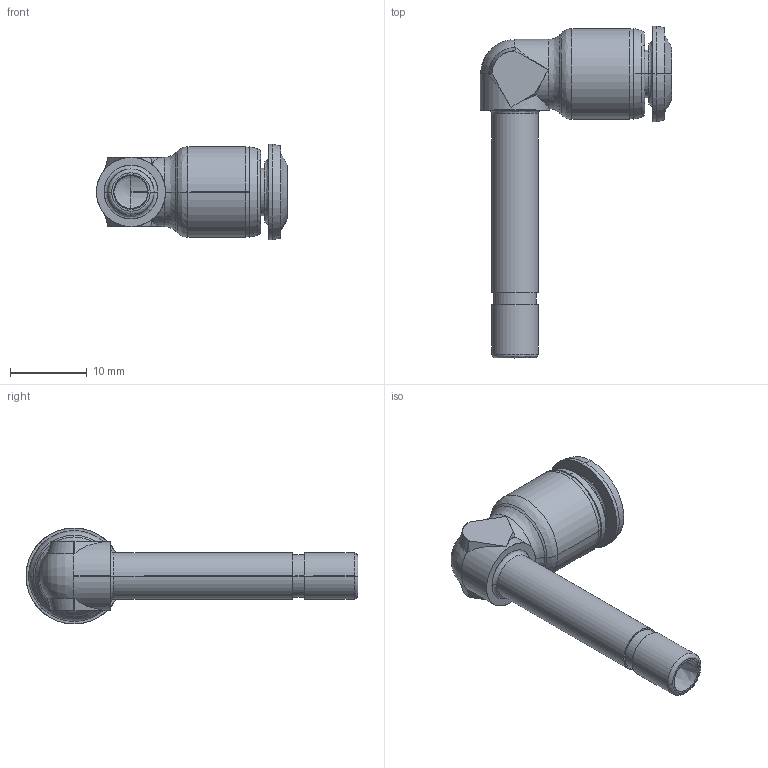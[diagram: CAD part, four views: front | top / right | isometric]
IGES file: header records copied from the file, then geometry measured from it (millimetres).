
Start section: SolidWorks IGES file using analytic representation for surfaces
Global section: file name: K:\Disegni Esecutivi\SERIE 55000\ASSIEMI_55000\55150\ASSIEMI_.IGES_55150\5515000005A.IGS; native system: SolidWorks 2016; preprocessor: SolidWorks 2016; author: cad05; date: 160722.104845; units: millimetre
Bounding box: 24.9 x 43.25 x 12.5 mm (x, y, z)
Surface area: 2308.6 mm2 (no closed solid volume)
Topology: 0 solids, 0 shells, 107 faces, 1307 edges, 1306 vertices
Faces by surface type: bspline 62, revolution 45
